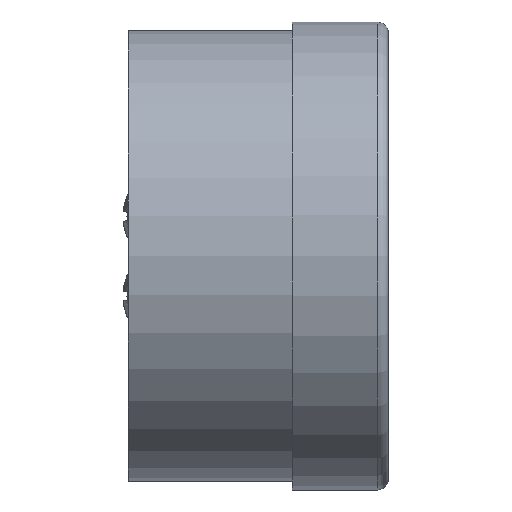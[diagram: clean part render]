
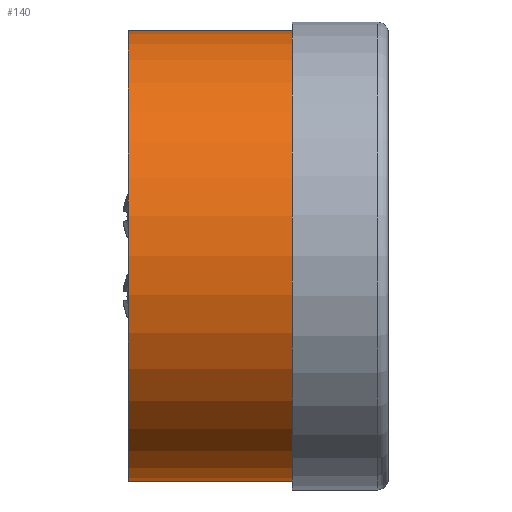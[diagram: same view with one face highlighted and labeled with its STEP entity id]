
A CAD part, top view. The second image highlights one B-rep face of the part: STEP entity #140.
In plain terms, the highlighted cylindrical face has radius 20.4 mm (diameter 40.8 mm), a full revolution.
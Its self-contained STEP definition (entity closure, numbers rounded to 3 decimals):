
#140=ADVANCED_FACE('',(#358,#360,#362),#364,.T.);
#358=FACE_OUTER_BOUND('',#359,.T.);
#359=EDGE_LOOP('',(#1433));
#360=FACE_OUTER_BOUND('',#361,.T.);
#361=EDGE_LOOP('',(#1434));
#362=FACE_BOUND('',#363,.T.);
#363=EDGE_LOOP('',(#1435,#1436,#1437,#1438));
#364=CYLINDRICAL_SURFACE('',#365,20.4);
#365=AXIS2_PLACEMENT_3D('',#366,#367,#368);
#366=CARTESIAN_POINT('',(0.,0.,0.));
#367=DIRECTION('',(1.,0.,0.));
#368=DIRECTION('',(0.,1.,0.));
#1433=ORIENTED_EDGE('',*,*,#1866,.F.);
#1434=ORIENTED_EDGE('',*,*,#1860,.T.);
#1435=ORIENTED_EDGE('',*,*,#1867,.T.);
#1436=ORIENTED_EDGE('',*,*,#1868,.T.);
#1437=ORIENTED_EDGE('',*,*,#1869,.T.);
#1438=ORIENTED_EDGE('',*,*,#1870,.T.);
#1860=EDGE_CURVE('',#2112,#2112,#2113,.T.);
#1866=EDGE_CURVE('',#2124,#2124,#2125,.T.);
#1867=EDGE_CURVE('',#2126,#2127,#2128,.F.);
#1868=EDGE_CURVE('',#2127,#2129,#2130,.F.);
#1869=EDGE_CURVE('',#2129,#2131,#2132,.T.);
#1870=EDGE_CURVE('',#2131,#2126,#2133,.T.);
#2112=VERTEX_POINT('',#2644);
#2113=CIRCLE('',#2645,20.4);
#2124=VERTEX_POINT('',#2672);
#2125=CIRCLE('',#2673,20.4);
#2126=VERTEX_POINT('',#2677);
#2127=VERTEX_POINT('',#2678);
#2128=LINE('',#2679,#2680);
#2129=VERTEX_POINT('',#2682);
#2130=CIRCLE('',#2683,20.4);
#2131=VERTEX_POINT('',#2687);
#2132=LINE('',#2688,#2689);
#2133=CIRCLE('',#2691,20.4);
#2644=CARTESIAN_POINT('',(0.,20.4,0.));
#2645=AXIS2_PLACEMENT_3D('',#2646,#2647,#2648);
#2646=CARTESIAN_POINT('',(0.,0.,0.));
#2647=DIRECTION('',(1.,0.,0.));
#2648=DIRECTION('',(0.,1.,0.));
#2672=CARTESIAN_POINT('',(20.7,20.4,0.));
#2673=AXIS2_PLACEMENT_3D('',#2674,#2675,#2676);
#2674=CARTESIAN_POINT('',(20.7,0.,0.));
#2675=DIRECTION('',(1.,0.,0.));
#2676=DIRECTION('',(0.,1.,0.));
#2677=CARTESIAN_POINT('',(18.2,6.,-19.498));
#2678=CARTESIAN_POINT('',(1.7,6.,-19.498));
#2679=CARTESIAN_POINT('',(1.7,6.,-19.498));
#2680=VECTOR('',#2681,1.);
#2681=DIRECTION('',(1.,0.,0.));
#2682=CARTESIAN_POINT('',(1.7,-6.,-19.498));
#2683=AXIS2_PLACEMENT_3D('',#2684,#2685,#2686);
#2684=CARTESIAN_POINT('',(1.7,0.,0.));
#2685=DIRECTION('',(1.,0.,0.));
#2686=DIRECTION('',(0.,-0.294,-0.956));
#2687=CARTESIAN_POINT('',(18.2,-6.,-19.498));
#2688=CARTESIAN_POINT('',(1.7,-6.,-19.498));
#2689=VECTOR('',#2690,1.);
#2690=DIRECTION('',(1.,0.,0.));
#2691=AXIS2_PLACEMENT_3D('',#2692,#2693,#2694);
#2692=CARTESIAN_POINT('',(18.2,0.,0.));
#2693=DIRECTION('',(1.,0.,0.));
#2694=DIRECTION('',(0.,-0.294,-0.956));
